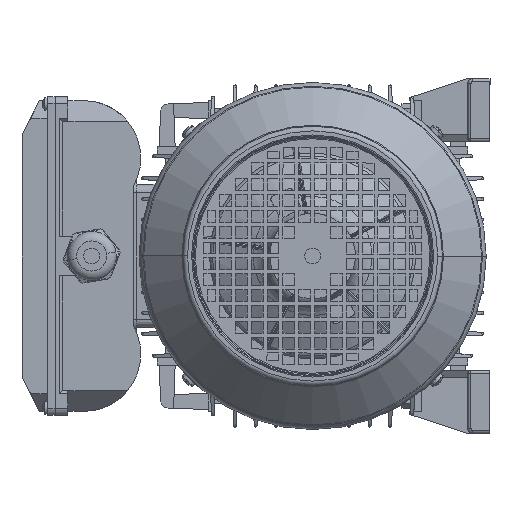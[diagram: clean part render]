
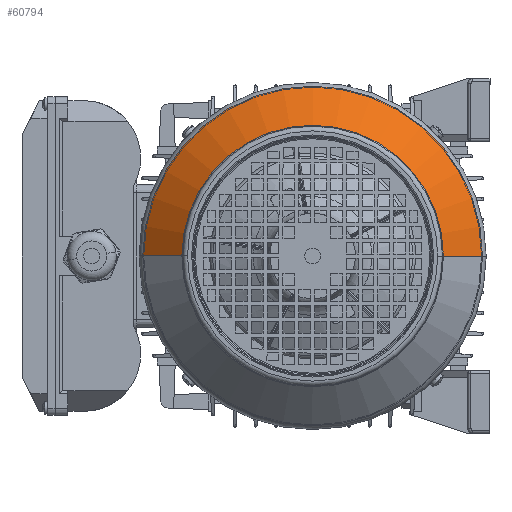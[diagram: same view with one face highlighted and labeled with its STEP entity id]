
A CAD part, left-side view. The second image highlights one B-rep face of the part: STEP entity #60794.
In plain terms, the highlighted conical face has half-angle 45 degrees and reference radius 82.586 mm.
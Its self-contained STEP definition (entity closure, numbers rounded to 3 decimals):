
#986 = AXIS2_PLACEMENT_3D ( 'NONE', #119602, #62876, #91432 ) ;
#5527 = ORIENTED_EDGE ( 'NONE', *, *, #13911, .F. ) ;
#6669 = CARTESIAN_POINT ( 'NONE',  ( 99.414, 0., 82.586 ) ) ;
#8702 = VECTOR ( 'NONE', #121227, 1000. ) ;
#13892 = DIRECTION ( 'NONE',  ( -1., 0., 0. ) ) ;
#13911 = EDGE_CURVE ( 'NONE', #57673, #104618, #58482, .T. ) ;
#15581 = CARTESIAN_POINT ( 'NONE',  ( 99.414, 0., -82.586 ) ) ;
#18437 = CARTESIAN_POINT ( 'NONE',  ( 74.743, 0., 107.257 ) ) ;
#25743 = CARTESIAN_POINT ( 'NONE',  ( 99.414, 0., 82.586 ) ) ;
#26843 = AXIS2_PLACEMENT_3D ( 'NONE', #110581, #93108, #111802 ) ;
#32024 = FACE_OUTER_BOUND ( 'NONE', #59335, .T. ) ;
#34049 = LINE ( 'NONE', #6669, #8702 ) ;
#35159 = VERTEX_POINT ( 'NONE', #25743 ) ;
#41764 = DIRECTION ( 'NONE',  ( 0., 0., 1. ) ) ;
#42432 = CONICAL_SURFACE ( 'NONE', #50900, 82.586, 0.785 ) ;
#48857 = CARTESIAN_POINT ( 'NONE',  ( 99.414, 0., -82.586 ) ) ;
#50900 = AXIS2_PLACEMENT_3D ( 'NONE', #51325, #13892, #41764 ) ;
#51325 = CARTESIAN_POINT ( 'NONE',  ( 99.414, 0., 0. ) ) ;
#51815 = ORIENTED_EDGE ( 'NONE', *, *, #97816, .F. ) ;
#56139 = VERTEX_POINT ( 'NONE', #18437 ) ;
#57673 = VERTEX_POINT ( 'NONE', #15581 ) ;
#58413 = DIRECTION ( 'NONE',  ( -0.707, 0., -0.707 ) ) ;
#58482 = LINE ( 'NONE', #48857, #114834 ) ;
#59335 = EDGE_LOOP ( 'NONE', ( #5527, #59585, #62053, #51815 ) ) ;
#59585 = ORIENTED_EDGE ( 'NONE', *, *, #109175, .T. ) ;
#60794 = ADVANCED_FACE ( 'NONE', ( #32024 ), #42432, .T. ) ;
#62053 = ORIENTED_EDGE ( 'NONE', *, *, #109643, .T. ) ;
#62876 = DIRECTION ( 'NONE',  ( -1., 0., 0. ) ) ;
#88149 = CARTESIAN_POINT ( 'NONE',  ( 74.743, 0., -107.257 ) ) ;
#91432 = DIRECTION ( 'NONE',  ( 0., 0., 1. ) ) ;
#93108 = DIRECTION ( 'NONE',  ( -1., 0., 0. ) ) ;
#97816 = EDGE_CURVE ( 'NONE', #104618, #56139, #118615, .T. ) ;
#104618 = VERTEX_POINT ( 'NONE', #88149 ) ;
#109175 = EDGE_CURVE ( 'NONE', #57673, #35159, #111203, .T. ) ;
#109643 = EDGE_CURVE ( 'NONE', #35159, #56139, #34049, .T. ) ;
#110581 = CARTESIAN_POINT ( 'NONE',  ( 99.414, 0., 0. ) ) ;
#111203 = CIRCLE ( 'NONE', #26843, 82.586 ) ;
#111802 = DIRECTION ( 'NONE',  ( 0., 0., 1. ) ) ;
#114834 = VECTOR ( 'NONE', #58413, 1000. ) ;
#118615 = CIRCLE ( 'NONE', #986, 107.257 ) ;
#119602 = CARTESIAN_POINT ( 'NONE',  ( 74.743, 0., 0. ) ) ;
#121227 = DIRECTION ( 'NONE',  ( -0.707, 0., 0.707 ) ) ;
